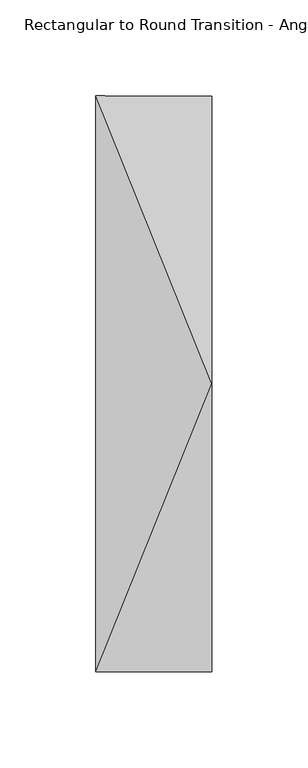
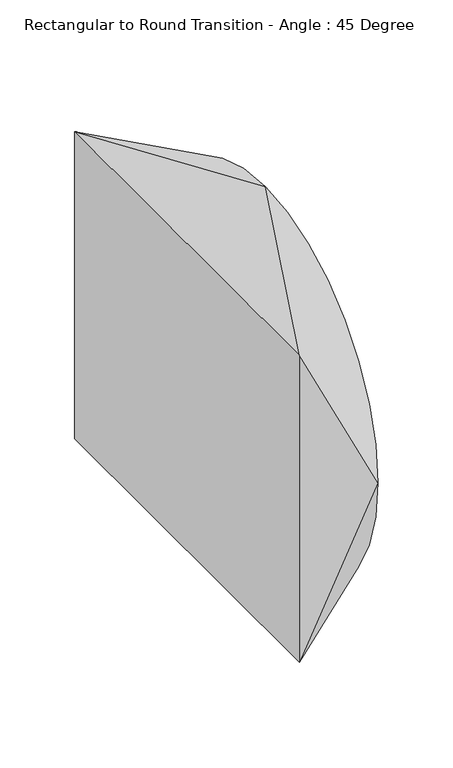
"""IFC4 building model written with IfcOpenShell, lengths in millimetres: duct fitting geometry, Rectangular to Round Transition - Angle : 45 Degree."""

from ifc_helpers import new_model, si_unit, frame, origin, place, context, project, spatial, circle_curve, source, transform, mapped, element, save
from ifc_brep_helpers import plane_surface, spline_surface, advanced_brep


def rectangular_to_round_transition_angle_45_degree_f64e0d1d(model_context):
    return source(origin(), model_context, "Body", "AdvancedBrep", [
        advanced_brep(
        [(60.3553391, 0.0, 150.0), (60.3553391, -150.0, 0.0), (60.3553391, 0.0, -150.0), (60.3553391, 150.0, 0.0), (0.0, -150.0, 125.0), (0.0, 150.0, 125.0), (0.0, 150.0, -125.0), (0.0, -150.0, -125.0)],
        [
            (0, 1, circle_curve(frame((60.3553391, 0.0, 0.0), z_axis=(1.0, 0.0, 0.0), x_axis=(0.0, 1.0, 0.0)), 150.0)),
            (1, 2, circle_curve(frame((60.3553391, 0.0, 0.0), z_axis=(1.0, 0.0, 0.0), x_axis=(0.0, 1.0, 0.0)), 150.0)),
            (2, 3, circle_curve(frame((60.3553391, 0.0, 0.0), z_axis=(1.0, 0.0, 0.0), x_axis=(0.0, 1.0, 0.0)), 150.0)),
            (3, 0, circle_curve(frame((60.3553391, 0.0, 0.0), z_axis=(1.0, 0.0, 0.0), x_axis=(0.0, 1.0, 0.0)), 150.0)),
            (4, 5),
            (5, 6),
            (6, 7),
            (7, 4),
            (0, 4),
            (4, 1),
            (7, 1),
            (7, 2),
            (6, 2),
            (6, 3),
            (5, 3),
            (5, 0),
        ],
        [
            plane_surface(frame((60.3553391, 0.0, 0.0), z_axis=(1.0, 0.0, 0.0), x_axis=(0.0, 0.0, -1.0))),
            plane_surface(frame((0.0, 0.0, 0.0), z_axis=(-1.0, 0.0, 0.0), x_axis=(0.0, 0.0, -1.0))),
            spline_surface(2, 1, [[(0.0, -150.0, 125.0), (60.3553391, 0.0, 150.0)], [(0.0, -150.0, 125.0), (60.3553391, -150.0, 150.0)], [(0.0, -150.0, 125.0), (60.3553391, -150.0, 0.0)]], [3, 3], [2, 2], [0.0, 1.0], [0.0, 1.0], weights=[[1.0, 1.0], [0.7071067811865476, 0.7071067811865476], [1.0, 1.0]]),
            plane_surface(frame((0.0, -150.0, 0.0), z_axis=(0.0, -1.0, 0.0), x_axis=(0.0, 0.0, -1.0))),
            spline_surface(2, 1, [[(0.0, -150.0, -125.0), (60.3553391, -150.0, 0.0)], [(0.0, -150.0, -125.0), (60.3553391, -150.0, -150.0)], [(0.0, -150.0, -125.0), (60.3553391, 0.0, -150.0)]], [3, 3], [2, 2], [0.0, 1.0], [0.0, 1.0], weights=[[1.0, 1.0], [0.7071067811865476, 0.7071067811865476], [1.0, 1.0]]),
            plane_surface(frame((0.0, 0.0, -125.0), z_axis=(-0.3826834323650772, 0.0, -0.923879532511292), x_axis=(0.0, 1.0, 0.0))),
            spline_surface(2, 1, [[(0.0, 150.0, -125.0), (60.3553391, 0.0, -150.0)], [(0.0, 150.0, -125.0), (60.3553391, 150.0, -150.0)], [(0.0, 150.0, -125.0), (60.3553391, 150.0, 0.0)]], [3, 3], [2, 2], [0.0, 1.0], [0.0, 1.0], weights=[[1.0, 1.0], [0.7071067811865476, 0.7071067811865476], [1.0, 1.0]]),
            plane_surface(frame((0.0, 150.0, 0.0), z_axis=(0.0, 1.0, 0.0), x_axis=(0.0, 0.0, 1.0))),
            spline_surface(2, 1, [[(0.0, 150.0, 125.0), (60.3553391, 150.0, 0.0)], [(0.0, 150.0, 125.0), (60.3553391, 150.0, 150.0)], [(0.0, 150.0, 125.0), (60.3553391, 0.0, 150.0)]], [3, 3], [2, 2], [0.0, 1.0], [0.0, 1.0], weights=[[1.0, 1.0], [0.7071067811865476, 0.7071067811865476], [1.0, 1.0]]),
            plane_surface(frame((0.0, 0.0, 125.0), z_axis=(-0.38268343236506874, 0.0, 0.9238795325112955), x_axis=(0.0, -1.0, 0.0))),
        ],
        [
            (0, [[1, 2, 3, 4]]),
            (1, [[5, 6, 7, 8]]),
            (2, [[-1, 9, 10]]),
            (3, [[-8, 11, -10]]),
            (4, [[-2, -11, 12]]),
            (5, [[-7, 13, -12]]),
            (6, [[-3, -13, 14]]),
            (7, [[-6, 15, -14]]),
            (8, [[-4, -15, 16]]),
            (9, [[-5, -9, -16]]),
        ],
    ),
    ])


if __name__ == "__main__":
    model = new_model("IFC4")
    model_context = context("Model", 3, world=origin())
    ifc_project = project(units=[si_unit("LENGTHUNIT", "METRE", prefix="MILLI")], contexts=[model_context])
    site = spatial("IfcSite", under=ifc_project)
    building = spatial("IfcBuilding", under=site)
    placement = place(None, origin())
    rectangular_to_round_transition_angle_45_degree_shape = rectangular_to_round_transition_angle_45_degree_f64e0d1d(model_context)
    element("IfcDuctFitting", 1, ObjectType="Rectangular to Round Transition - Angle : 45 Degree", at=placement, inside=building, context=model_context, shape_type="MappedRepresentation", body=[
        mapped(rectangular_to_round_transition_angle_45_degree_shape, transform((0.0, 0.0, 0.0), x_axis=(1.0, 0.0, 0.0), y_axis=(0.0, 1.0, 0.0), z_axis=(0.0, 0.0, 1.0))),
    ])
    save(model, "model.ifc")
